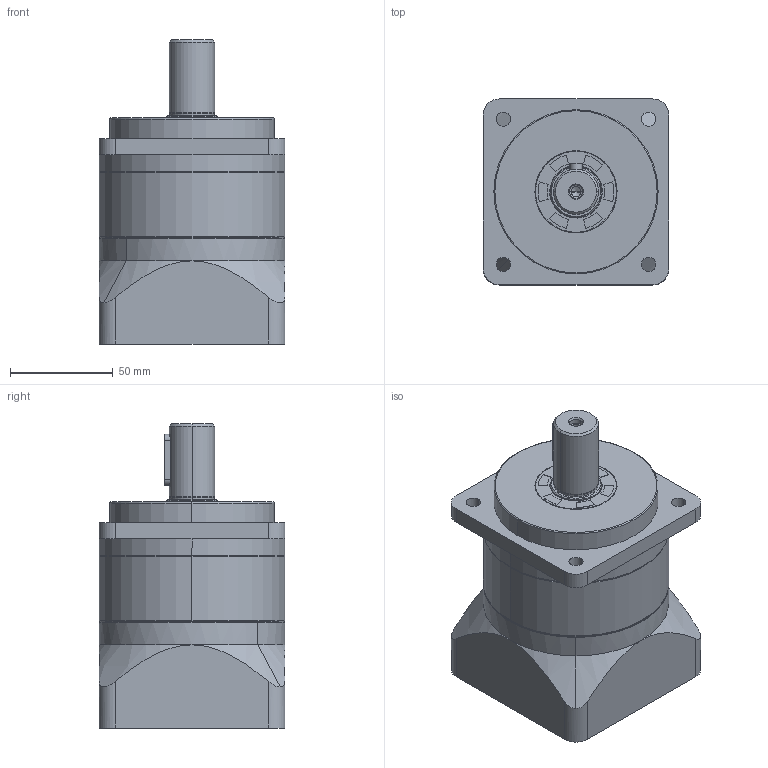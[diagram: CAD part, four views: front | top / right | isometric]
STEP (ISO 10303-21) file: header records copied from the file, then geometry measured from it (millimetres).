
FILE_DESCRIPTION (( 'STEP AP203' ), '1' );
FILE_NAME ('SA90-L1(19-70-90-M5).STEP', '2021-12-14T05:31:17', ( '' ), ( '' ), 'SwSTEP 2.0', 'SolidWorks 2016', '' );
FILE_SCHEMA (( 'CONFIG_CONTROL_DESIGN' ));
Length unit declared in the file: millimetre
Products named in the file (9): SN90-(19); SN90-25x40x5; SN90-48x27x15-M6; SN90-(70-90-M5); SN90-(22x37-6x25); SA90-L1(19-70-90-M5); SA90-(80x10-100-7); SN90; DP90
Assembly tree (8 placements, depth 2):
  SA90-L1(19-70-90-M5)
    SA90-(80x10-100-7)
    SN90-25x40x5
    SN90-(22x37-6x25)
    SN90
    DP90
    SN90-(70-90-M5)
    SN90-(19)
    SN90-48x27x15-M6
Bounding box: 90.5 x 90.5 x 148.1 mm (x, y, z)
Volume: 696505.6 mm3; surface area: 132415.3 mm2
Topology: 10 solids, 10 shells, 430 faces, 1097 edges, 697 vertices
Faces by surface type: cylinder 246, plane 101, cone 47, bspline 30, torus 6
Entity records: 30903 total; most frequent: CARTESIAN_POINT 19985, ORIENTED_EDGE 2150, DIRECTION 2034, EDGE_CURVE 1075, AXIS2_PLACEMENT_3D 803, VERTEX_POINT 697, EDGE_LOOP 520, FACE_OUTER_BOUND 430
